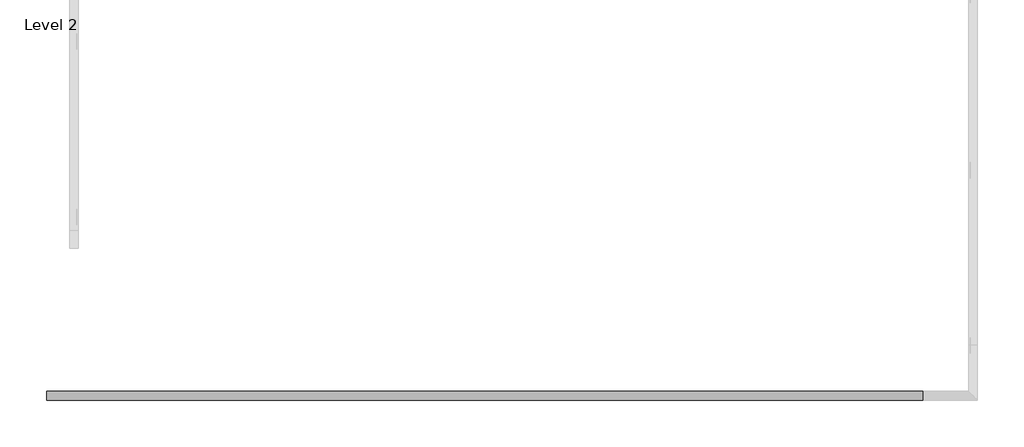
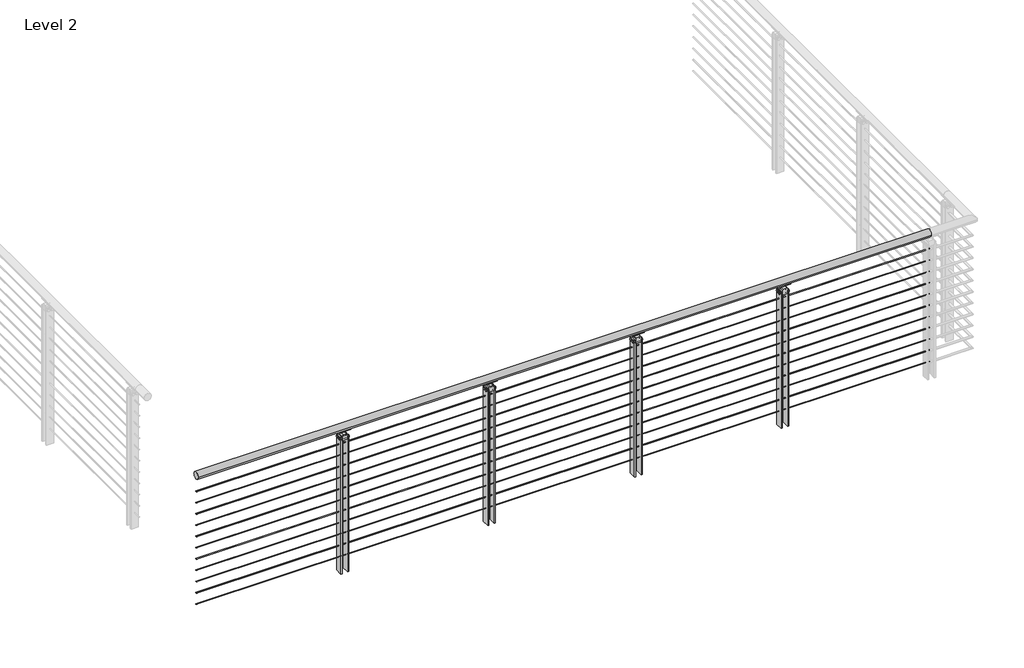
# One storey, part 24 of 31: 1 railing.
"""IFC4 building model written with IfcOpenShell, lengths in millimetres."""

from ifc_helpers import new_model, si_unit, point, frame, frame_2d, origin, place, context, project, spatial, polyline, circle_curve, trimmed, segment, composite_curve, outline, extrude, element, save
from ifc_brep_helpers import plane_surface, cylinder_surface, revolved_surface, advanced_brep

model = new_model("IFC4")

# Units and contexts
model_context = context("Model", 3, world=origin())
ifc_project = project(units=[si_unit("LENGTHUNIT", "METRE", prefix="MILLI")], contexts=[model_context])

# Site, building, storey
site = spatial("IfcSite", under=ifc_project)
building = spatial("IfcBuilding", under=site)
storey = spatial("IfcBuildingStorey", under=building, Name="Level 2", Elevation=3048.0)

# Railing
placement = place(None, origin())
element("IfcRailing", 1, ObjectType="VIVA-BLADE-Cable-Weld Mount-Straight", at=placement, inside=storey, context=model_context, shape_type="SolidModel", body=[
    extrude(outline(composite_curve([segment(trimmed(circle_curve(frame_2d((-52219.0426165, 4102.1)), 25.4), [point((-52244.4426165, 4102.1))], [point((-52193.6426165, 4102.1))], False, "CARTESIAN"), True, "CONTINUOUS"), segment(trimmed(circle_curve(frame_2d((-52219.0426165, 4102.1)), 25.4), [point((-52193.6426165, 4102.1))], [point((-52244.4426165, 4102.1))], False, "CARTESIAN"), True, "CONTINUOUS")], self_intersect=False)), frame((41046.2072927, 0.0, 0.0), z_axis=(1.0, 0.0, 0.0), x_axis=(0.0, 1.0, 0.0)), (0.0, 0.0, 1.0), 5080.0),
    extrude(outline(composite_curve([segment(trimmed(circle_curve(frame_2d((-52219.0426165, 3985.4124)), 2.3876), [point((-52216.6550165, 3985.4124))], [point((-52221.4302165, 3985.4124))], False, "CARTESIAN"), True, "CONTINUOUS"), segment(trimmed(circle_curve(frame_2d((-52219.0426165, 3985.4124)), 2.3876), [point((-52221.4302165, 3985.4124))], [point((-52216.6550165, 3985.4124))], False, "CARTESIAN"), True, "CONTINUOUS")], self_intersect=False)), frame((41046.2072927, 0.0, 0.0), z_axis=(1.0, 0.0, 0.0), x_axis=(0.0, 1.0, 0.0)), (0.0, 0.0, 1.0), 5080.0),
    extrude(outline(composite_curve([segment(trimmed(circle_curve(frame_2d((-52219.0426165, 3902.8624)), 2.3876), [point((-52216.6550165, 3902.8624))], [point((-52221.4302165, 3902.8624))], False, "CARTESIAN"), True, "CONTINUOUS"), segment(trimmed(circle_curve(frame_2d((-52219.0426165, 3902.8624)), 2.3876), [point((-52221.4302165, 3902.8624))], [point((-52216.6550165, 3902.8624))], False, "CARTESIAN"), True, "CONTINUOUS")], self_intersect=False)), frame((41046.2072927, 0.0, 0.0), z_axis=(1.0, 0.0, 0.0), x_axis=(0.0, 1.0, 0.0)), (0.0, 0.0, 1.0), 5080.0),
    extrude(outline(composite_curve([segment(trimmed(circle_curve(frame_2d((-52219.0426165, 3820.3124)), 2.3876), [point((-52216.6550165, 3820.3124))], [point((-52221.4302165, 3820.3124))], False, "CARTESIAN"), True, "CONTINUOUS"), segment(trimmed(circle_curve(frame_2d((-52219.0426165, 3820.3124)), 2.3876), [point((-52221.4302165, 3820.3124))], [point((-52216.6550165, 3820.3124))], False, "CARTESIAN"), True, "CONTINUOUS")], self_intersect=False)), frame((41046.2072927, 0.0, 0.0), z_axis=(1.0, 0.0, 0.0), x_axis=(0.0, 1.0, 0.0)), (0.0, 0.0, 1.0), 5080.0),
    extrude(outline(composite_curve([segment(trimmed(circle_curve(frame_2d((-52219.0426165, 3737.7624)), 2.3876), [point((-52216.6550165, 3737.7624))], [point((-52221.4302165, 3737.7624))], False, "CARTESIAN"), True, "CONTINUOUS"), segment(trimmed(circle_curve(frame_2d((-52219.0426165, 3737.7624)), 2.3876), [point((-52221.4302165, 3737.7624))], [point((-52216.6550165, 3737.7624))], False, "CARTESIAN"), True, "CONTINUOUS")], self_intersect=False)), frame((41046.2072927, 0.0, 0.0), z_axis=(1.0, 0.0, 0.0), x_axis=(0.0, 1.0, 0.0)), (0.0, 0.0, 1.0), 5080.0),
    extrude(outline(composite_curve([segment(trimmed(circle_curve(frame_2d((-52219.0426165, 3655.2124)), 2.3876), [point((-52216.6550165, 3655.2124))], [point((-52221.4302165, 3655.2124))], False, "CARTESIAN"), True, "CONTINUOUS"), segment(trimmed(circle_curve(frame_2d((-52219.0426165, 3655.2124)), 2.3876), [point((-52221.4302165, 3655.2124))], [point((-52216.6550165, 3655.2124))], False, "CARTESIAN"), True, "CONTINUOUS")], self_intersect=False)), frame((41046.2072927, 0.0, 0.0), z_axis=(1.0, 0.0, 0.0), x_axis=(0.0, 1.0, 0.0)), (0.0, 0.0, 1.0), 5080.0),
    extrude(outline(composite_curve([segment(trimmed(circle_curve(frame_2d((-52219.0426165, 3572.6624)), 2.3876), [point((-52216.6550165, 3572.6624))], [point((-52221.4302165, 3572.6624))], False, "CARTESIAN"), True, "CONTINUOUS"), segment(trimmed(circle_curve(frame_2d((-52219.0426165, 3572.6624)), 2.3876), [point((-52221.4302165, 3572.6624))], [point((-52216.6550165, 3572.6624))], False, "CARTESIAN"), True, "CONTINUOUS")], self_intersect=False)), frame((41046.2072927, 0.0, 0.0), z_axis=(1.0, 0.0, 0.0), x_axis=(0.0, 1.0, 0.0)), (0.0, 0.0, 1.0), 5080.0),
    extrude(outline(composite_curve([segment(trimmed(circle_curve(frame_2d((-52219.0426165, 3490.1124)), 2.3876), [point((-52216.6550165, 3490.1124))], [point((-52221.4302165, 3490.1124))], False, "CARTESIAN"), True, "CONTINUOUS"), segment(trimmed(circle_curve(frame_2d((-52219.0426165, 3490.1124)), 2.3876), [point((-52221.4302165, 3490.1124))], [point((-52216.6550165, 3490.1124))], False, "CARTESIAN"), True, "CONTINUOUS")], self_intersect=False)), frame((41046.2072927, 0.0, 0.0), z_axis=(1.0, 0.0, 0.0), x_axis=(0.0, 1.0, 0.0)), (0.0, 0.0, 1.0), 5080.0),
    extrude(outline(composite_curve([segment(trimmed(circle_curve(frame_2d((-52219.0426165, 3407.5624)), 2.3876), [point((-52216.6550165, 3407.5624))], [point((-52221.4302165, 3407.5624))], False, "CARTESIAN"), True, "CONTINUOUS"), segment(trimmed(circle_curve(frame_2d((-52219.0426165, 3407.5624)), 2.3876), [point((-52221.4302165, 3407.5624))], [point((-52216.6550165, 3407.5624))], False, "CARTESIAN"), True, "CONTINUOUS")], self_intersect=False)), frame((41046.2072927, 0.0, 0.0), z_axis=(1.0, 0.0, 0.0), x_axis=(0.0, 1.0, 0.0)), (0.0, 0.0, 1.0), 5080.0),
    extrude(outline(composite_curve([segment(trimmed(circle_curve(frame_2d((-52219.0426165, 3325.0124)), 2.3876), [point((-52216.6550165, 3325.0124))], [point((-52221.4302165, 3325.0124))], False, "CARTESIAN"), True, "CONTINUOUS"), segment(trimmed(circle_curve(frame_2d((-52219.0426165, 3325.0124)), 2.3876), [point((-52221.4302165, 3325.0124))], [point((-52216.6550165, 3325.0124))], False, "CARTESIAN"), True, "CONTINUOUS")], self_intersect=False)), frame((41046.2072927, 0.0, 0.0), z_axis=(1.0, 0.0, 0.0), x_axis=(0.0, 1.0, 0.0)), (0.0, 0.0, 1.0), 5080.0),
    extrude(outline(composite_curve([segment(trimmed(circle_curve(frame_2d((-52219.0426165, 3242.4624)), 2.3876), [point((-52216.6550165, 3242.4624))], [point((-52221.4302165, 3242.4624))], False, "CARTESIAN"), True, "CONTINUOUS"), segment(trimmed(circle_curve(frame_2d((-52219.0426165, 3242.4624)), 2.3876), [point((-52221.4302165, 3242.4624))], [point((-52216.6550165, 3242.4624))], False, "CARTESIAN"), True, "CONTINUOUS")], self_intersect=False)), frame((41046.2072927, 0.0, 0.0), z_axis=(1.0, 0.0, 0.0), x_axis=(0.0, 1.0, 0.0)), (0.0, 0.0, 1.0), 5080.0),
    extrude(outline(composite_curve([segment(trimmed(circle_curve(frame_2d((-52219.0426165, 3159.9124)), 2.3876), [point((-52216.6550165, 3159.9124))], [point((-52221.4302165, 3159.9124))], False, "CARTESIAN"), True, "CONTINUOUS"), segment(trimmed(circle_curve(frame_2d((-52219.0426165, 3159.9124)), 2.3876), [point((-52221.4302165, 3159.9124))], [point((-52216.6550165, 3159.9124))], False, "CARTESIAN"), True, "CONTINUOUS")], self_intersect=False)), frame((41046.2072927, 0.0, 0.0), z_axis=(1.0, 0.0, 0.0), x_axis=(0.0, 1.0, 0.0)), (0.0, 0.0, 1.0), 5080.0),
    advanced_brep(
    [(45155.4446927, -52206.2824929, 4080.0967655), (45155.4446927, -52231.1545574, 4079.9535285), (45155.4446927, -52233.9634877, 4075.1267745), (45155.4446927, -52202.4465955, 4075.707533), (45064.9698927, -52206.2824929, 4080.0967655), (45064.9698927, -52202.4465955, 4075.707533), (45064.9698927, -52234.0772811, 4075.1893964), (45064.9698927, -52231.2415296, 4080.0018447)],
    [
        (0, 1, circle_curve(frame((45155.4446927, -52218.8462958, 4102.2115898), z_axis=(-1.0, 0.0, 0.0), x_axis=(0.0, 1.0, 0.0)), 25.4345159)),
        (1, 2, circle_curve(frame((45155.4446927, -52232.4861827, 4077.4993599), z_axis=(1.0, 0.0, 0.0), x_axis=(0.0, 1.0, 0.0)), 2.7949225)),
        (2, 3, circle_curve(frame((45155.4446927, -52218.7128327, 4102.9742164), z_axis=(1.0, 0.0, 0.0), x_axis=(0.0, 1.0, 0.0)), 31.75)),
        (3, 0, circle_curve(frame((45155.4446927, -52204.7349352, 4077.5784521), z_axis=(1.0, 0.0, 0.0), x_axis=(0.0, 1.0, 0.0)), 2.9558141)),
        (4, 5, circle_curve(frame((45064.9698927, -52204.7349352, 4077.5784521), z_axis=(-1.0, 0.0, 0.0), x_axis=(0.0, 1.0, 0.0)), 2.9558141)),
        (5, 6, circle_curve(frame((45064.9698927, -52218.7128327, 4102.9742164), z_axis=(-1.0, 0.0, 0.0), x_axis=(0.0, 1.0, 0.0)), 31.75)),
        (6, 7, circle_curve(frame((45064.9698927, -52232.4861827, 4077.4993599), z_axis=(-1.0, 0.0, 0.0), x_axis=(0.0, 1.0, 0.0)), 2.7949225)),
        (7, 4, circle_curve(frame((45064.9698927, -52218.8462958, 4102.2115898), z_axis=(1.0, 0.0, 0.0), x_axis=(0.0, 1.0, 0.0)), 25.4345159)),
        (0, 4),
        (7, 1),
        (6, 2),
        (5, 3),
    ],
    [
        plane_surface(frame((45155.4446927, -52193.4117799, 4102.2115898), z_axis=(1.0, 0.0, 0.0), x_axis=(0.0, 0.0, -1.0))),
        plane_surface(frame((45064.9698927, -52193.4117799, 4102.2115898), z_axis=(-1.0, 0.0, 0.0), x_axis=(0.0, 0.0, 1.0))),
        revolved_surface(polyline([(45064.9698927, -52193.4117799, 4102.2115898), (45155.4446927, -52193.4117799, 4102.2115898)]), (45064.9698927, -52218.8462958, 4102.2115898), (-1.0, 0.0, 0.0)),
        cylinder_surface(frame((45064.9698927, -52232.4861827, 4077.4993599), z_axis=(1.0, 0.0, 0.0), x_axis=(0.0, 1.0, 0.0)), 2.7949225),
        cylinder_surface(frame((45064.9698927, -52218.7128327, 4102.9742164), z_axis=(1.0, 0.0, 0.0), x_axis=(0.0, 1.0, 0.0)), 31.75),
        cylinder_surface(frame((45064.9698927, -52204.7349352, 4077.5784521), z_axis=(1.0, 0.0, 0.0), x_axis=(0.0, 1.0, 0.0)), 2.9558141),
    ],
    [
        (0, [[1, 2, 3, 4]]),
        (1, [[5, 6, 7, 8]]),
        (2, [[-1, 9, -8, 10]]),
        (3, [[-2, -10, -7, 11]]),
        (4, [[-3, -11, -6, 12]]),
        (5, [[-4, -12, -5, -9]]),
    ],
),
    extrude(outline(composite_curve([segment(trimmed(circle_curve(frame_2d((4062.4125, 45137.2752076)), 14.3679149), [point((4062.4125, 45122.9072927))], [point((4076.7804149, 45137.2752076))], True, "CARTESIAN"), True, "CONTINUOUS"), segment(polyline([(4076.7804149, 45137.2752076), (4076.7804149, 45083.1393778)]), True, "CONTINUOUS"), segment(trimmed(circle_curve(frame_2d((4062.4125, 45083.1393778)), 14.3679149), [point((4076.7804149, 45083.1393778))], [point((4062.4125, 45097.5072927))], True, "CARTESIAN"), True, "CONTINUOUS"), segment(polyline([(4062.4125, 45097.5072927), (4062.4125, 45122.9072927)]), True, "CONTINUOUS")], self_intersect=False)), frame((0.0, -52221.5826165, 0.0), z_axis=(0.0, 1.0, 0.0), x_axis=(0.0, 0.0, 1.0)), (0.0, 0.0, 1.0), 5.08),
    extrude(outline(polyline([(45083.132457, -52193.6428199), (45091.1572927, -52193.6428199), (45091.1572927, -52244.4451445), (45083.132457, -52244.4451445), (45083.132457, -52193.6428199)])), frame((0.0, 0.0, 3048.0), z_axis=(0.0, 0.0, 1.0), x_axis=(1.0, 0.0, 0.0)), (0.0, 0.0, 1.0), 996.95),
    extrude(outline(composite_curve([segment(trimmed(circle_curve(frame_2d((-52231.7450935, 4034.0416929)), 8.89), [point((-52240.6350935, 4034.0416929))], [point((-52222.8550935, 4034.0416929))], False, "CARTESIAN"), True, "CONTINUOUS"), segment(trimmed(circle_curve(frame_2d((-52231.7450935, 4034.0416929)), 8.89), [point((-52222.8550935, 4034.0416929))], [point((-52240.6350935, 4034.0416929))], False, "CARTESIAN"), True, "CONTINUOUS")], self_intersect=False)), frame((45078.4572927, 0.0, 0.0), z_axis=(1.0, 0.0, 0.0), x_axis=(0.0, 1.0, 0.0)), (0.0, 0.0, 1.0), 63.4880631),
    extrude(outline(composite_curve([segment(trimmed(circle_curve(frame_2d((-52206.3451955, 4034.0416929)), 8.89), [point((-52215.2351955, 4034.0416929))], [point((-52197.4551955, 4034.0416929))], False, "CARTESIAN"), True, "CONTINUOUS"), segment(trimmed(circle_curve(frame_2d((-52206.3451955, 4034.0416929)), 8.89), [point((-52197.4551955, 4034.0416929))], [point((-52215.2351955, 4034.0416929))], False, "CARTESIAN"), True, "CONTINUOUS")], self_intersect=False)), frame((45078.4572927, 0.0, 0.0), z_axis=(1.0, 0.0, 0.0), x_axis=(0.0, 1.0, 0.0)), (0.0, 0.0, 1.0), 63.4880631),
    extrude(outline(polyline([(4022.7123, 45091.1572927), (4022.7123, 45129.2572927), (4056.0625, 45129.2572927), (4062.4125, 45122.9072927), (4062.4125, 45097.5072927), (4056.0625, 45091.1572927), (4022.7123, 45091.1572927)])), frame((0.0, -52244.4451445, 0.0), z_axis=(0.0, 1.0, 0.0), x_axis=(0.0, 0.0, 1.0)), (0.0, 0.0, 1.0), 50.8025279),
    extrude(outline(polyline([(45129.2572547, -52193.6428199), (45137.2582547, -52193.6428199), (45137.2582547, -52244.4451445), (45129.2572547, -52244.4451445), (45129.2572547, -52193.6428199)])), frame((0.0, 0.0, 3048.0), z_axis=(0.0, 0.0, 1.0), x_axis=(1.0, 0.0, 0.0)), (0.0, 0.0, 1.0), 996.95),
    advanced_brep(
    [(44139.4446927, -52206.2824929, 4080.0967655), (44139.4446927, -52231.1545574, 4079.9535285), (44139.4446927, -52233.9634877, 4075.1267745), (44139.4446927, -52202.4465955, 4075.707533), (44048.9698927, -52206.2824929, 4080.0967655), (44048.9698927, -52202.4465955, 4075.707533), (44048.9698927, -52234.0772811, 4075.1893964), (44048.9698927, -52231.2415296, 4080.0018447)],
    [
        (0, 1, circle_curve(frame((44139.4446927, -52218.8462958, 4102.2115898), z_axis=(-1.0, 0.0, 0.0), x_axis=(0.0, 1.0, 0.0)), 25.4345159)),
        (1, 2, circle_curve(frame((44139.4446927, -52232.4861827, 4077.4993599), z_axis=(1.0, 0.0, 0.0), x_axis=(0.0, 1.0, 0.0)), 2.7949225)),
        (2, 3, circle_curve(frame((44139.4446927, -52218.7128327, 4102.9742164), z_axis=(1.0, 0.0, 0.0), x_axis=(0.0, 1.0, 0.0)), 31.75)),
        (3, 0, circle_curve(frame((44139.4446927, -52204.7349352, 4077.5784521), z_axis=(1.0, 0.0, 0.0), x_axis=(0.0, 1.0, 0.0)), 2.9558141)),
        (4, 5, circle_curve(frame((44048.9698927, -52204.7349352, 4077.5784521), z_axis=(-1.0, 0.0, 0.0), x_axis=(0.0, 1.0, 0.0)), 2.9558141)),
        (5, 6, circle_curve(frame((44048.9698927, -52218.7128327, 4102.9742164), z_axis=(-1.0, 0.0, 0.0), x_axis=(0.0, 1.0, 0.0)), 31.75)),
        (6, 7, circle_curve(frame((44048.9698927, -52232.4861827, 4077.4993599), z_axis=(-1.0, 0.0, 0.0), x_axis=(0.0, 1.0, 0.0)), 2.7949225)),
        (7, 4, circle_curve(frame((44048.9698927, -52218.8462958, 4102.2115898), z_axis=(1.0, 0.0, 0.0), x_axis=(0.0, 1.0, 0.0)), 25.4345159)),
        (0, 4),
        (7, 1),
        (6, 2),
        (5, 3),
    ],
    [
        plane_surface(frame((44139.4446927, -52193.4117799, 4102.2115898), z_axis=(1.0, 0.0, 0.0), x_axis=(0.0, 0.0, -1.0))),
        plane_surface(frame((44048.9698927, -52193.4117799, 4102.2115898), z_axis=(-1.0, 0.0, 0.0), x_axis=(0.0, 0.0, 1.0))),
        revolved_surface(polyline([(44048.9698927, -52193.4117799, 4102.2115898), (44139.4446927, -52193.4117799, 4102.2115898)]), (44048.9698927, -52218.8462958, 4102.2115898), (-1.0, 0.0, 0.0)),
        cylinder_surface(frame((44048.9698927, -52232.4861827, 4077.4993599), z_axis=(1.0, 0.0, 0.0), x_axis=(0.0, 1.0, 0.0)), 2.7949225),
        cylinder_surface(frame((44048.9698927, -52218.7128327, 4102.9742164), z_axis=(1.0, 0.0, 0.0), x_axis=(0.0, 1.0, 0.0)), 31.75),
        cylinder_surface(frame((44048.9698927, -52204.7349352, 4077.5784521), z_axis=(1.0, 0.0, 0.0), x_axis=(0.0, 1.0, 0.0)), 2.9558141),
    ],
    [
        (0, [[1, 2, 3, 4]]),
        (1, [[5, 6, 7, 8]]),
        (2, [[-1, 9, -8, 10]]),
        (3, [[-2, -10, -7, 11]]),
        (4, [[-3, -11, -6, 12]]),
        (5, [[-4, -12, -5, -9]]),
    ],
),
    extrude(outline(composite_curve([segment(trimmed(circle_curve(frame_2d((4062.4125, 44121.2752076)), 14.3679149), [point((4062.4125, 44106.9072927))], [point((4076.7804149, 44121.2752076))], True, "CARTESIAN"), True, "CONTINUOUS"), segment(polyline([(4076.7804149, 44121.2752076), (4076.7804149, 44067.1393778)]), True, "CONTINUOUS"), segment(trimmed(circle_curve(frame_2d((4062.4125, 44067.1393778)), 14.3679149), [point((4076.7804149, 44067.1393778))], [point((4062.4125, 44081.5072927))], True, "CARTESIAN"), True, "CONTINUOUS"), segment(polyline([(4062.4125, 44081.5072927), (4062.4125, 44106.9072927)]), True, "CONTINUOUS")], self_intersect=False)), frame((0.0, -52221.5826165, 0.0), z_axis=(0.0, 1.0, 0.0), x_axis=(0.0, 0.0, 1.0)), (0.0, 0.0, 1.0), 5.08),
    extrude(outline(polyline([(44067.132457, -52193.6428199), (44075.1572927, -52193.6428199), (44075.1572927, -52244.4451445), (44067.132457, -52244.4451445), (44067.132457, -52193.6428199)])), frame((0.0, 0.0, 3048.0), z_axis=(0.0, 0.0, 1.0), x_axis=(1.0, 0.0, 0.0)), (0.0, 0.0, 1.0), 996.95),
    extrude(outline(composite_curve([segment(trimmed(circle_curve(frame_2d((-52231.7450935, 4034.0416929)), 8.89), [point((-52240.6350935, 4034.0416929))], [point((-52222.8550935, 4034.0416929))], False, "CARTESIAN"), True, "CONTINUOUS"), segment(trimmed(circle_curve(frame_2d((-52231.7450935, 4034.0416929)), 8.89), [point((-52222.8550935, 4034.0416929))], [point((-52240.6350935, 4034.0416929))], False, "CARTESIAN"), True, "CONTINUOUS")], self_intersect=False)), frame((44062.4572927, 0.0, 0.0), z_axis=(1.0, 0.0, 0.0), x_axis=(0.0, 1.0, 0.0)), (0.0, 0.0, 1.0), 63.4880631),
    extrude(outline(composite_curve([segment(trimmed(circle_curve(frame_2d((-52206.3451955, 4034.0416929)), 8.89), [point((-52215.2351955, 4034.0416929))], [point((-52197.4551955, 4034.0416929))], False, "CARTESIAN"), True, "CONTINUOUS"), segment(trimmed(circle_curve(frame_2d((-52206.3451955, 4034.0416929)), 8.89), [point((-52197.4551955, 4034.0416929))], [point((-52215.2351955, 4034.0416929))], False, "CARTESIAN"), True, "CONTINUOUS")], self_intersect=False)), frame((44062.4572927, 0.0, 0.0), z_axis=(1.0, 0.0, 0.0), x_axis=(0.0, 1.0, 0.0)), (0.0, 0.0, 1.0), 63.4880631),
    extrude(outline(polyline([(4022.7123, 44075.1572927), (4022.7123, 44113.2572927), (4056.0625, 44113.2572927), (4062.4125, 44106.9072927), (4062.4125, 44081.5072927), (4056.0625, 44075.1572927), (4022.7123, 44075.1572927)])), frame((0.0, -52244.4451445, 0.0), z_axis=(0.0, 1.0, 0.0), x_axis=(0.0, 0.0, 1.0)), (0.0, 0.0, 1.0), 50.8025279),
    extrude(outline(polyline([(44113.2572547, -52193.6428199), (44121.2582547, -52193.6428199), (44121.2582547, -52244.4451445), (44113.2572547, -52244.4451445), (44113.2572547, -52193.6428199)])), frame((0.0, 0.0, 3048.0), z_axis=(0.0, 0.0, 1.0), x_axis=(1.0, 0.0, 0.0)), (0.0, 0.0, 1.0), 996.95),
    advanced_brep(
    [(43123.4446927, -52206.2824929, 4080.0967655), (43123.4446927, -52231.1545574, 4079.9535285), (43123.4446927, -52233.9634877, 4075.1267745), (43123.4446927, -52202.4465955, 4075.707533), (43032.9698927, -52206.2824929, 4080.0967655), (43032.9698927, -52202.4465955, 4075.707533), (43032.9698927, -52234.0772811, 4075.1893964), (43032.9698927, -52231.2415296, 4080.0018447)],
    [
        (0, 1, circle_curve(frame((43123.4446927, -52218.8462958, 4102.2115898), z_axis=(-1.0, 0.0, 0.0), x_axis=(0.0, 1.0, 0.0)), 25.4345159)),
        (1, 2, circle_curve(frame((43123.4446927, -52232.4861827, 4077.4993599), z_axis=(1.0, 0.0, 0.0), x_axis=(0.0, 1.0, 0.0)), 2.7949225)),
        (2, 3, circle_curve(frame((43123.4446927, -52218.7128327, 4102.9742164), z_axis=(1.0, 0.0, 0.0), x_axis=(0.0, 1.0, 0.0)), 31.75)),
        (3, 0, circle_curve(frame((43123.4446927, -52204.7349352, 4077.5784521), z_axis=(1.0, 0.0, 0.0), x_axis=(0.0, 1.0, 0.0)), 2.9558141)),
        (4, 5, circle_curve(frame((43032.9698927, -52204.7349352, 4077.5784521), z_axis=(-1.0, 0.0, 0.0), x_axis=(0.0, 1.0, 0.0)), 2.9558141)),
        (5, 6, circle_curve(frame((43032.9698927, -52218.7128327, 4102.9742164), z_axis=(-1.0, 0.0, 0.0), x_axis=(0.0, 1.0, 0.0)), 31.75)),
        (6, 7, circle_curve(frame((43032.9698927, -52232.4861827, 4077.4993599), z_axis=(-1.0, 0.0, 0.0), x_axis=(0.0, 1.0, 0.0)), 2.7949225)),
        (7, 4, circle_curve(frame((43032.9698927, -52218.8462958, 4102.2115898), z_axis=(1.0, 0.0, 0.0), x_axis=(0.0, 1.0, 0.0)), 25.4345159)),
        (0, 4),
        (7, 1),
        (6, 2),
        (5, 3),
    ],
    [
        plane_surface(frame((43123.4446927, -52193.4117799, 4102.2115898), z_axis=(1.0, 0.0, 0.0), x_axis=(0.0, 0.0, -1.0))),
        plane_surface(frame((43032.9698927, -52193.4117799, 4102.2115898), z_axis=(-1.0, 0.0, 0.0), x_axis=(0.0, 0.0, 1.0))),
        revolved_surface(polyline([(43032.9698927, -52193.4117799, 4102.2115898), (43123.4446927, -52193.4117799, 4102.2115898)]), (43032.9698927, -52218.8462958, 4102.2115898), (-1.0, 0.0, 0.0)),
        cylinder_surface(frame((43032.9698927, -52232.4861827, 4077.4993599), z_axis=(1.0, 0.0, 0.0), x_axis=(0.0, 1.0, 0.0)), 2.7949225),
        cylinder_surface(frame((43032.9698927, -52218.7128327, 4102.9742164), z_axis=(1.0, 0.0, 0.0), x_axis=(0.0, 1.0, 0.0)), 31.75),
        cylinder_surface(frame((43032.9698927, -52204.7349352, 4077.5784521), z_axis=(1.0, 0.0, 0.0), x_axis=(0.0, 1.0, 0.0)), 2.9558141),
    ],
    [
        (0, [[1, 2, 3, 4]]),
        (1, [[5, 6, 7, 8]]),
        (2, [[-1, 9, -8, 10]]),
        (3, [[-2, -10, -7, 11]]),
        (4, [[-3, -11, -6, 12]]),
        (5, [[-4, -12, -5, -9]]),
    ],
),
    extrude(outline(composite_curve([segment(trimmed(circle_curve(frame_2d((4062.4125, 43105.2752076)), 14.3679149), [point((4062.4125, 43090.9072927))], [point((4076.7804149, 43105.2752076))], True, "CARTESIAN"), True, "CONTINUOUS"), segment(polyline([(4076.7804149, 43105.2752076), (4076.7804149, 43051.1393778)]), True, "CONTINUOUS"), segment(trimmed(circle_curve(frame_2d((4062.4125, 43051.1393778)), 14.3679149), [point((4076.7804149, 43051.1393778))], [point((4062.4125, 43065.5072927))], True, "CARTESIAN"), True, "CONTINUOUS"), segment(polyline([(4062.4125, 43065.5072927), (4062.4125, 43090.9072927)]), True, "CONTINUOUS")], self_intersect=False)), frame((0.0, -52221.5826165, 0.0), z_axis=(0.0, 1.0, 0.0), x_axis=(0.0, 0.0, 1.0)), (0.0, 0.0, 1.0), 5.08),
    extrude(outline(polyline([(43051.132457, -52193.6428199), (43059.1572927, -52193.6428199), (43059.1572927, -52244.4451445), (43051.132457, -52244.4451445), (43051.132457, -52193.6428199)])), frame((0.0, 0.0, 3048.0), z_axis=(0.0, 0.0, 1.0), x_axis=(1.0, 0.0, 0.0)), (0.0, 0.0, 1.0), 996.95),
    extrude(outline(composite_curve([segment(trimmed(circle_curve(frame_2d((-52231.7450935, 4034.0416929)), 8.89), [point((-52240.6350935, 4034.0416929))], [point((-52222.8550935, 4034.0416929))], False, "CARTESIAN"), True, "CONTINUOUS"), segment(trimmed(circle_curve(frame_2d((-52231.7450935, 4034.0416929)), 8.89), [point((-52222.8550935, 4034.0416929))], [point((-52240.6350935, 4034.0416929))], False, "CARTESIAN"), True, "CONTINUOUS")], self_intersect=False)), frame((43046.4572927, 0.0, 0.0), z_axis=(1.0, 0.0, 0.0), x_axis=(0.0, 1.0, 0.0)), (0.0, 0.0, 1.0), 63.4880631),
    extrude(outline(composite_curve([segment(trimmed(circle_curve(frame_2d((-52206.3451955, 4034.0416929)), 8.89), [point((-52215.2351955, 4034.0416929))], [point((-52197.4551955, 4034.0416929))], False, "CARTESIAN"), True, "CONTINUOUS"), segment(trimmed(circle_curve(frame_2d((-52206.3451955, 4034.0416929)), 8.89), [point((-52197.4551955, 4034.0416929))], [point((-52215.2351955, 4034.0416929))], False, "CARTESIAN"), True, "CONTINUOUS")], self_intersect=False)), frame((43046.4572927, 0.0, 0.0), z_axis=(1.0, 0.0, 0.0), x_axis=(0.0, 1.0, 0.0)), (0.0, 0.0, 1.0), 63.4880631),
    extrude(outline(polyline([(4022.7123, 43059.1572927), (4022.7123, 43097.2572927), (4056.0625, 43097.2572927), (4062.4125, 43090.9072927), (4062.4125, 43065.5072927), (4056.0625, 43059.1572927), (4022.7123, 43059.1572927)])), frame((0.0, -52244.4451445, 0.0), z_axis=(0.0, 1.0, 0.0), x_axis=(0.0, 0.0, 1.0)), (0.0, 0.0, 1.0), 50.8025279),
    extrude(outline(polyline([(43097.2572547, -52193.6428199), (43105.2582547, -52193.6428199), (43105.2582547, -52244.4451445), (43097.2572547, -52244.4451445), (43097.2572547, -52193.6428199)])), frame((0.0, 0.0, 3048.0), z_axis=(0.0, 0.0, 1.0), x_axis=(1.0, 0.0, 0.0)), (0.0, 0.0, 1.0), 996.95),
    advanced_brep(
    [(42107.4446927, -52206.2824929, 4080.0967655), (42107.4446927, -52231.1545574, 4079.9535285), (42107.4446927, -52233.9634877, 4075.1267745), (42107.4446927, -52202.4465955, 4075.707533), (42016.9698927, -52206.2824929, 4080.0967655), (42016.9698927, -52202.4465955, 4075.707533), (42016.9698927, -52234.0772811, 4075.1893964), (42016.9698927, -52231.2415296, 4080.0018447)],
    [
        (0, 1, circle_curve(frame((42107.4446927, -52218.8462958, 4102.2115898), z_axis=(-1.0, 0.0, 0.0), x_axis=(0.0, 1.0, 0.0)), 25.4345159)),
        (1, 2, circle_curve(frame((42107.4446927, -52232.4861827, 4077.4993599), z_axis=(1.0, 0.0, 0.0), x_axis=(0.0, 1.0, 0.0)), 2.7949225)),
        (2, 3, circle_curve(frame((42107.4446927, -52218.7128327, 4102.9742164), z_axis=(1.0, 0.0, 0.0), x_axis=(0.0, 1.0, 0.0)), 31.75)),
        (3, 0, circle_curve(frame((42107.4446927, -52204.7349352, 4077.5784521), z_axis=(1.0, 0.0, 0.0), x_axis=(0.0, 1.0, 0.0)), 2.9558141)),
        (4, 5, circle_curve(frame((42016.9698927, -52204.7349352, 4077.5784521), z_axis=(-1.0, 0.0, 0.0), x_axis=(0.0, 1.0, 0.0)), 2.9558141)),
        (5, 6, circle_curve(frame((42016.9698927, -52218.7128327, 4102.9742164), z_axis=(-1.0, 0.0, 0.0), x_axis=(0.0, 1.0, 0.0)), 31.75)),
        (6, 7, circle_curve(frame((42016.9698927, -52232.4861827, 4077.4993599), z_axis=(-1.0, 0.0, 0.0), x_axis=(0.0, 1.0, 0.0)), 2.7949225)),
        (7, 4, circle_curve(frame((42016.9698927, -52218.8462958, 4102.2115898), z_axis=(1.0, 0.0, 0.0), x_axis=(0.0, 1.0, 0.0)), 25.4345159)),
        (0, 4),
        (7, 1),
        (6, 2),
        (5, 3),
    ],
    [
        plane_surface(frame((42107.4446927, -52193.4117799, 4102.2115898), z_axis=(1.0, 0.0, 0.0), x_axis=(0.0, 0.0, -1.0))),
        plane_surface(frame((42016.9698927, -52193.4117799, 4102.2115898), z_axis=(-1.0, 0.0, 0.0), x_axis=(0.0, 0.0, 1.0))),
        revolved_surface(polyline([(42016.9698927, -52193.4117799, 4102.2115898), (42107.4446927, -52193.4117799, 4102.2115898)]), (42016.9698927, -52218.8462958, 4102.2115898), (-1.0, 0.0, 0.0)),
        cylinder_surface(frame((42016.9698927, -52232.4861827, 4077.4993599), z_axis=(1.0, 0.0, 0.0), x_axis=(0.0, 1.0, 0.0)), 2.7949225),
        cylinder_surface(frame((42016.9698927, -52218.7128327, 4102.9742164), z_axis=(1.0, 0.0, 0.0), x_axis=(0.0, 1.0, 0.0)), 31.75),
        cylinder_surface(frame((42016.9698927, -52204.7349352, 4077.5784521), z_axis=(1.0, 0.0, 0.0), x_axis=(0.0, 1.0, 0.0)), 2.9558141),
    ],
    [
        (0, [[1, 2, 3, 4]]),
        (1, [[5, 6, 7, 8]]),
        (2, [[-1, 9, -8, 10]]),
        (3, [[-2, -10, -7, 11]]),
        (4, [[-3, -11, -6, 12]]),
        (5, [[-4, -12, -5, -9]]),
    ],
),
    extrude(outline(composite_curve([segment(trimmed(circle_curve(frame_2d((4062.4125, 42089.2752076)), 14.3679149), [point((4062.4125, 42074.9072927))], [point((4076.7804149, 42089.2752076))], True, "CARTESIAN"), True, "CONTINUOUS"), segment(polyline([(4076.7804149, 42089.2752076), (4076.7804149, 42035.1393778)]), True, "CONTINUOUS"), segment(trimmed(circle_curve(frame_2d((4062.4125, 42035.1393778)), 14.3679149), [point((4076.7804149, 42035.1393778))], [point((4062.4125, 42049.5072927))], True, "CARTESIAN"), True, "CONTINUOUS"), segment(polyline([(4062.4125, 42049.5072927), (4062.4125, 42074.9072927)]), True, "CONTINUOUS")], self_intersect=False)), frame((0.0, -52221.5826165, 0.0), z_axis=(0.0, 1.0, 0.0), x_axis=(0.0, 0.0, 1.0)), (0.0, 0.0, 1.0), 5.08),
    extrude(outline(polyline([(42035.132457, -52193.6428199), (42043.1572927, -52193.6428199), (42043.1572927, -52244.4451445), (42035.132457, -52244.4451445), (42035.132457, -52193.6428199)])), frame((0.0, 0.0, 3048.0), z_axis=(0.0, 0.0, 1.0), x_axis=(1.0, 0.0, 0.0)), (0.0, 0.0, 1.0), 996.95),
    extrude(outline(composite_curve([segment(trimmed(circle_curve(frame_2d((-52231.7450935, 4034.0416929)), 8.89), [point((-52240.6350935, 4034.0416929))], [point((-52222.8550935, 4034.0416929))], False, "CARTESIAN"), True, "CONTINUOUS"), segment(trimmed(circle_curve(frame_2d((-52231.7450935, 4034.0416929)), 8.89), [point((-52222.8550935, 4034.0416929))], [point((-52240.6350935, 4034.0416929))], False, "CARTESIAN"), True, "CONTINUOUS")], self_intersect=False)), frame((42030.4572927, 0.0, 0.0), z_axis=(1.0, 0.0, 0.0), x_axis=(0.0, 1.0, 0.0)), (0.0, 0.0, 1.0), 63.4880631),
    extrude(outline(composite_curve([segment(trimmed(circle_curve(frame_2d((-52206.3451955, 4034.0416929)), 8.89), [point((-52215.2351955, 4034.0416929))], [point((-52197.4551955, 4034.0416929))], False, "CARTESIAN"), True, "CONTINUOUS"), segment(trimmed(circle_curve(frame_2d((-52206.3451955, 4034.0416929)), 8.89), [point((-52197.4551955, 4034.0416929))], [point((-52215.2351955, 4034.0416929))], False, "CARTESIAN"), True, "CONTINUOUS")], self_intersect=False)), frame((42030.4572927, 0.0, 0.0), z_axis=(1.0, 0.0, 0.0), x_axis=(0.0, 1.0, 0.0)), (0.0, 0.0, 1.0), 63.4880631),
    extrude(outline(polyline([(4022.7123, 42043.1572927), (4022.7123, 42081.2572927), (4056.0625, 42081.2572927), (4062.4125, 42074.9072927), (4062.4125, 42049.5072927), (4056.0625, 42043.1572927), (4022.7123, 42043.1572927)])), frame((0.0, -52244.4451445, 0.0), z_axis=(0.0, 1.0, 0.0), x_axis=(0.0, 0.0, 1.0)), (0.0, 0.0, 1.0), 50.8025279),
    extrude(outline(polyline([(42081.2572547, -52193.6428199), (42089.2582547, -52193.6428199), (42089.2582547, -52244.4451445), (42081.2572547, -52244.4451445), (42081.2572547, -52193.6428199)])), frame((0.0, 0.0, 3048.0), z_axis=(0.0, 0.0, 1.0), x_axis=(1.0, 0.0, 0.0)), (0.0, 0.0, 1.0), 996.95),
])

save(model, "model.ifc")
